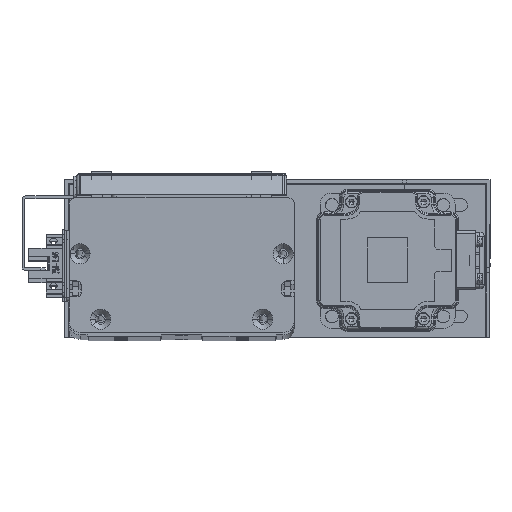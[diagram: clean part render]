
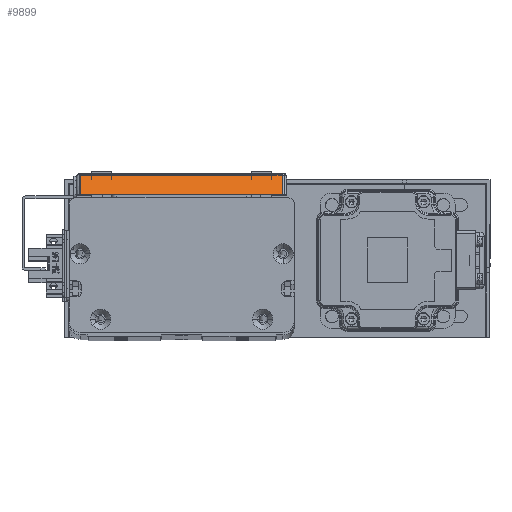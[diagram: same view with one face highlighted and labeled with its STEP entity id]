
A CAD part, top view. The second image highlights one B-rep face of the part: STEP entity #9899.
In plain terms, the highlighted planar face has unit normal (0, 0.707, 0.707) as drawn and (-0.707, 0, -0.707) by its records, which use the part's own axes.
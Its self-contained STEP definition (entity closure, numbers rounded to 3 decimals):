
#3406 = DIRECTION ( 'NONE',  ( -0.707, 0., 0.707 ) ) ;
#6617 = VECTOR ( 'NONE', #3406, 1000. ) ;
#6885 = LINE ( 'NONE', #42945, #12855 ) ;
#8439 = CARTESIAN_POINT ( 'NONE',  ( -68., 93.4, 5.6 ) ) ;
#9037 = EDGE_CURVE ( 'NONE', #65019, #47897, #21232, .T. ) ;
#9899 = ADVANCED_FACE ( 'NONE', ( #66762 ), #24996, .T. ) ;
#12855 = VECTOR ( 'NONE', #31889, 1000. ) ;
#14369 = DIRECTION ( 'NONE',  ( -0.707, 0., 0.707 ) ) ;
#14546 = CARTESIAN_POINT ( 'NONE',  ( -66.5, 91.7, 4.1 ) ) ;
#16002 = EDGE_LOOP ( 'NONE', ( #25284, #54956, #22925, #21775 ) ) ;
#17833 = VERTEX_POINT ( 'NONE', #14546 ) ;
#18683 = CARTESIAN_POINT ( 'NONE',  ( -57.298, 93.4, -5.102 ) ) ;
#19164 = CARTESIAN_POINT ( 'NONE',  ( -68., 91.7, 5.6 ) ) ;
#21232 = LINE ( 'NONE', #36326, #6617 ) ;
#21775 = ORIENTED_EDGE ( 'NONE', *, *, #51900, .T. ) ;
#22925 = ORIENTED_EDGE ( 'NONE', *, *, #37785, .T. ) ;
#24996 = PLANE ( 'NONE',  #50881 ) ;
#25284 = ORIENTED_EDGE ( 'NONE', *, *, #9037, .T. ) ;
#25485 = DIRECTION ( 'NONE',  ( -0.707, 0., -0.707 ) ) ;
#27394 = VECTOR ( 'NONE', #46162, 1000. ) ;
#31889 = DIRECTION ( 'NONE',  ( 0., 1., 0. ) ) ;
#36269 = LINE ( 'NONE', #18683, #39706 ) ;
#36326 = CARTESIAN_POINT ( 'NONE',  ( -68., 1.7, 5.6 ) ) ;
#37785 = EDGE_CURVE ( 'NONE', #17833, #59745, #55848, .T. ) ;
#39706 = VECTOR ( 'NONE', #68233, 1000. ) ;
#42945 = CARTESIAN_POINT ( 'NONE',  ( -66.5, 93.4, 4.1 ) ) ;
#46162 = DIRECTION ( 'NONE',  ( 0.707, 0., -0.707 ) ) ;
#47897 = VERTEX_POINT ( 'NONE', #57353 ) ;
#50881 = AXIS2_PLACEMENT_3D ( 'NONE', #8439, #25485, #14369 ) ;
#51900 = EDGE_CURVE ( 'NONE', #59745, #65019, #36269, .T. ) ;
#54956 = ORIENTED_EDGE ( 'NONE', *, *, #65981, .T. ) ;
#55848 = LINE ( 'NONE', #19164, #27394 ) ;
#57353 = CARTESIAN_POINT ( 'NONE',  ( -66.5, 1.7, 4.1 ) ) ;
#59745 = VERTEX_POINT ( 'NONE', #63253 ) ;
#61192 = CARTESIAN_POINT ( 'NONE',  ( -57.298, 1.7, -5.102 ) ) ;
#63253 = CARTESIAN_POINT ( 'NONE',  ( -57.298, 91.7, -5.102 ) ) ;
#65019 = VERTEX_POINT ( 'NONE', #61192 ) ;
#65981 = EDGE_CURVE ( 'NONE', #47897, #17833, #6885, .T. ) ;
#66762 = FACE_OUTER_BOUND ( 'NONE', #16002, .T. ) ;
#68233 = DIRECTION ( 'NONE',  ( 0., -1., 0. ) ) ;
